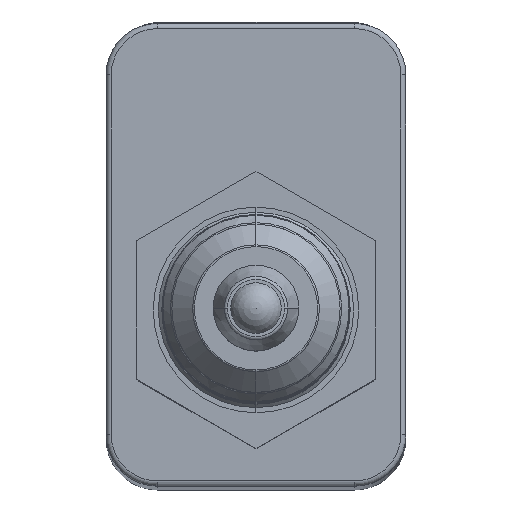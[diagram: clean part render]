
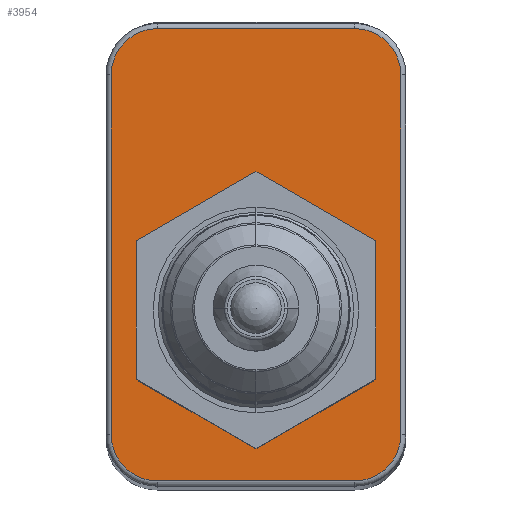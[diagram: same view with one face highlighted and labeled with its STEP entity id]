
A CAD part, top view. The second image highlights one B-rep face of the part: STEP entity #3954.
In plain terms, the highlighted planar face has unit normal (0, 0, 1) as drawn and (0, -1, 0) by its records, which use the part's own axes.
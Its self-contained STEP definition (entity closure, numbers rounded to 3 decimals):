
#33 = DIRECTION ( 'NONE',  ( 0., -1., 0. ) ) ;
#83 = DIRECTION ( 'NONE',  ( 0., 0., 1. ) ) ;
#114 = VERTEX_POINT ( 'NONE', #10066 ) ;
#162 = DIRECTION ( 'NONE',  ( 0., 0., 1. ) ) ;
#212 = EDGE_CURVE ( 'NONE', #2701, #8572, #6237, .T. ) ;
#243 = AXIS2_PLACEMENT_3D ( 'NONE', #3817, #8592, #7102 ) ;
#247 = DIRECTION ( 'NONE',  ( 0., 0., 1. ) ) ;
#489 = DIRECTION ( 'NONE',  ( 0., 0., 1. ) ) ;
#665 = VECTOR ( 'NONE', #489, 1000. ) ;
#865 = CARTESIAN_POINT ( 'NONE',  ( -1.25, -10., -5.612 ) ) ;
#961 = CIRCLE ( 'NONE', #9329, 2.7 ) ;
#1122 = ORIENTED_EDGE ( 'NONE', *, *, #8219, .T. ) ;
#1203 = CARTESIAN_POINT ( 'NONE',  ( 0., -10., -9.95 ) ) ;
#1231 = VERTEX_POINT ( 'NONE', #5335 ) ;
#1239 = CARTESIAN_POINT ( 'NONE',  ( 8.45, -10., 13.75 ) ) ;
#1260 = CARTESIAN_POINT ( 'NONE',  ( -1.25, -10., -6.3 ) ) ;
#1265 = EDGE_CURVE ( 'NONE', #7481, #4156, #961, .T. ) ;
#1578 = CARTESIAN_POINT ( 'NONE',  ( 5.75, -10., 13.75 ) ) ;
#1589 = DIRECTION ( 'NONE',  ( 0., 1., 0. ) ) ;
#1673 = DIRECTION ( 'NONE',  ( 0., 0., 1. ) ) ;
#1744 = CARTESIAN_POINT ( 'NONE',  ( -5.75, -10., 13.75 ) ) ;
#1762 = DIRECTION ( 'NONE',  ( -1., 0., 0. ) ) ;
#1783 = VERTEX_POINT ( 'NONE', #5964 ) ;
#1784 = DIRECTION ( 'NONE',  ( 0., -1., 0. ) ) ;
#2008 = EDGE_CURVE ( 'NONE', #3006, #5623, #7194, .T. ) ;
#2176 = LINE ( 'NONE', #5954, #8050 ) ;
#2278 = VECTOR ( 'NONE', #4703, 1000. ) ;
#2298 = LINE ( 'NONE', #6447, #6964 ) ;
#2330 = LINE ( 'NONE', #3264, #3543 ) ;
#2490 = CARTESIAN_POINT ( 'NONE',  ( 0., -10., -7.55 ) ) ;
#2574 = CARTESIAN_POINT ( 'NONE',  ( 0., -10., -6.3 ) ) ;
#2577 = EDGE_CURVE ( 'NONE', #7901, #1783, #4795, .T. ) ;
#2666 = EDGE_CURVE ( 'NONE', #3312, #8572, #9520, .T. ) ;
#2672 = FACE_OUTER_BOUND ( 'NONE', #8285, .T. ) ;
#2701 = VERTEX_POINT ( 'NONE', #2490 ) ;
#2822 = CARTESIAN_POINT ( 'NONE',  ( 5.75, -10., -9.95 ) ) ;
#2969 = ORIENTED_EDGE ( 'NONE', *, *, #4069, .T. ) ;
#2977 = AXIS2_PLACEMENT_3D ( 'NONE', #7983, #5602, #247 ) ;
#3006 = VERTEX_POINT ( 'NONE', #2822 ) ;
#3066 = AXIS2_PLACEMENT_3D ( 'NONE', #4856, #1784, #162 ) ;
#3071 = CIRCLE ( 'NONE', #9527, 2.7 ) ;
#3264 = CARTESIAN_POINT ( 'NONE',  ( 1.25, -10., -5.099 ) ) ;
#3312 = VERTEX_POINT ( 'NONE', #865 ) ;
#3365 = CIRCLE ( 'NONE', #5659, 1.25 ) ;
#3513 = EDGE_LOOP ( 'NONE', ( #6135, #1122, #7008, #6671, #9399 ) ) ;
#3543 = VECTOR ( 'NONE', #1673, 1000. ) ;
#3817 = CARTESIAN_POINT ( 'NONE',  ( 0., -10., 0. ) ) ;
#3889 = LINE ( 'NONE', #1203, #6729 ) ;
#3954 = ADVANCED_FACE ( 'NONE', ( #2672, #10132 ), #6171, .F. ) ;
#3977 = CARTESIAN_POINT ( 'NONE',  ( -1.25, -10., -5.099 ) ) ;
#4069 = EDGE_CURVE ( 'NONE', #4156, #114, #2298, .T. ) ;
#4135 = DIRECTION ( 'NONE',  ( 0., 1., 0. ) ) ;
#4156 = VERTEX_POINT ( 'NONE', #8121 ) ;
#4352 = EDGE_CURVE ( 'NONE', #4447, #7901, #2176, .T. ) ;
#4403 = ORIENTED_EDGE ( 'NONE', *, *, #6626, .T. ) ;
#4447 = VERTEX_POINT ( 'NONE', #7730 ) ;
#4703 = DIRECTION ( 'NONE',  ( 0., 0., -1. ) ) ;
#4714 = CARTESIAN_POINT ( 'NONE',  ( 5.75, -10., -7.25 ) ) ;
#4795 = CIRCLE ( 'NONE', #3066, 2.7 ) ;
#4856 = CARTESIAN_POINT ( 'NONE',  ( -5.75, -10., -7.25 ) ) ;
#5327 = LINE ( 'NONE', #9051, #665 ) ;
#5335 = CARTESIAN_POINT ( 'NONE',  ( 1.25, -10., -5.612 ) ) ;
#5602 = DIRECTION ( 'NONE',  ( 0., 1., 0. ) ) ;
#5623 = VERTEX_POINT ( 'NONE', #9411 ) ;
#5659 = AXIS2_PLACEMENT_3D ( 'NONE', #2574, #4135, #5728 ) ;
#5687 = EDGE_CURVE ( 'NONE', #8567, #2701, #3365, .T. ) ;
#5728 = DIRECTION ( 'NONE',  ( 0., 0., 1. ) ) ;
#5930 = EDGE_CURVE ( 'NONE', #5623, #7481, #5327, .T. ) ;
#5952 = CARTESIAN_POINT ( 'NONE',  ( 1.25, -10., -6.3 ) ) ;
#5954 = CARTESIAN_POINT ( 'NONE',  ( -8.45, -10., 0. ) ) ;
#5964 = CARTESIAN_POINT ( 'NONE',  ( -5.75, -10., -9.95 ) ) ;
#6135 = ORIENTED_EDGE ( 'NONE', *, *, #2666, .F. ) ;
#6171 = PLANE ( 'NONE',  #243 ) ;
#6197 = AXIS2_PLACEMENT_3D ( 'NONE', #6267, #1589, #7055 ) ;
#6237 = CIRCLE ( 'NONE', #2977, 1.25 ) ;
#6267 = CARTESIAN_POINT ( 'NONE',  ( 0., -10., 0. ) ) ;
#6295 = DIRECTION ( 'NONE',  ( 0., -1., 0. ) ) ;
#6447 = CARTESIAN_POINT ( 'NONE',  ( 0., -10., 16.45 ) ) ;
#6626 = EDGE_CURVE ( 'NONE', #114, #4447, #3071, .T. ) ;
#6642 = EDGE_CURVE ( 'NONE', #8567, #1231, #2330, .T. ) ;
#6671 = ORIENTED_EDGE ( 'NONE', *, *, #5687, .T. ) ;
#6729 = VECTOR ( 'NONE', #8889, 1000. ) ;
#6964 = VECTOR ( 'NONE', #1762, 1000. ) ;
#7008 = ORIENTED_EDGE ( 'NONE', *, *, #6642, .F. ) ;
#7024 = ORIENTED_EDGE ( 'NONE', *, *, #5930, .T. ) ;
#7055 = DIRECTION ( 'NONE',  ( 0., 0., 1. ) ) ;
#7102 = DIRECTION ( 'NONE',  ( 0., 0., 1. ) ) ;
#7194 = CIRCLE ( 'NONE', #8368, 2.7 ) ;
#7443 = ORIENTED_EDGE ( 'NONE', *, *, #4352, .T. ) ;
#7444 = EDGE_CURVE ( 'NONE', #1783, #3006, #3889, .T. ) ;
#7481 = VERTEX_POINT ( 'NONE', #1239 ) ;
#7657 = ORIENTED_EDGE ( 'NONE', *, *, #7444, .T. ) ;
#7730 = CARTESIAN_POINT ( 'NONE',  ( -8.45, -10., 13.75 ) ) ;
#7864 = ORIENTED_EDGE ( 'NONE', *, *, #2577, .T. ) ;
#7901 = VERTEX_POINT ( 'NONE', #8987 ) ;
#7983 = CARTESIAN_POINT ( 'NONE',  ( 0., -10., -6.3 ) ) ;
#8050 = VECTOR ( 'NONE', #9892, 1000. ) ;
#8121 = CARTESIAN_POINT ( 'NONE',  ( 5.75, -10., 16.45 ) ) ;
#8219 = EDGE_CURVE ( 'NONE', #3312, #1231, #9898, .T. ) ;
#8285 = EDGE_LOOP ( 'NONE', ( #7024, #8967, #2969, #4403, #7443, #7864, #7657, #8405 ) ) ;
#8368 = AXIS2_PLACEMENT_3D ( 'NONE', #4714, #33, #9367 ) ;
#8405 = ORIENTED_EDGE ( 'NONE', *, *, #2008, .T. ) ;
#8567 = VERTEX_POINT ( 'NONE', #5952 ) ;
#8572 = VERTEX_POINT ( 'NONE', #1260 ) ;
#8592 = DIRECTION ( 'NONE',  ( 0., 1., 0. ) ) ;
#8667 = DIRECTION ( 'NONE',  ( 0., 0., 1. ) ) ;
#8889 = DIRECTION ( 'NONE',  ( 1., 0., 0. ) ) ;
#8967 = ORIENTED_EDGE ( 'NONE', *, *, #1265, .T. ) ;
#8987 = CARTESIAN_POINT ( 'NONE',  ( -8.45, -10., -7.25 ) ) ;
#9051 = CARTESIAN_POINT ( 'NONE',  ( 8.45, -10., 0. ) ) ;
#9329 = AXIS2_PLACEMENT_3D ( 'NONE', #1578, #6295, #83 ) ;
#9367 = DIRECTION ( 'NONE',  ( 0., 0., 1. ) ) ;
#9399 = ORIENTED_EDGE ( 'NONE', *, *, #212, .T. ) ;
#9411 = CARTESIAN_POINT ( 'NONE',  ( 8.45, -10., -7.25 ) ) ;
#9430 = DIRECTION ( 'NONE',  ( 0., -1., 0. ) ) ;
#9520 = LINE ( 'NONE', #3977, #2278 ) ;
#9527 = AXIS2_PLACEMENT_3D ( 'NONE', #1744, #9430, #8667 ) ;
#9892 = DIRECTION ( 'NONE',  ( 0., 0., -1. ) ) ;
#9898 = CIRCLE ( 'NONE', #6197, 5.75 ) ;
#10066 = CARTESIAN_POINT ( 'NONE',  ( -5.75, -10., 16.45 ) ) ;
#10132 = FACE_BOUND ( 'NONE', #3513, .T. ) ;
